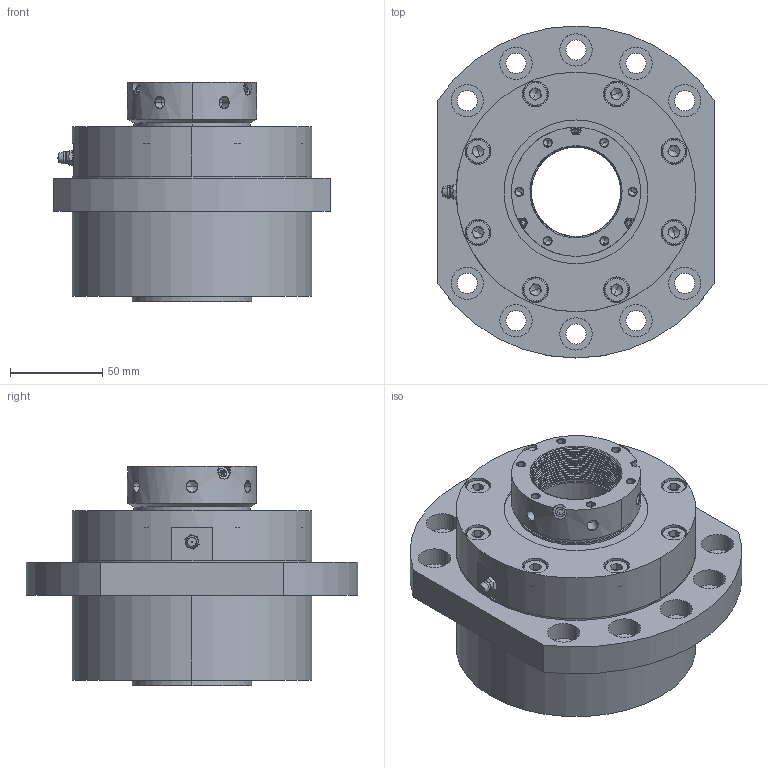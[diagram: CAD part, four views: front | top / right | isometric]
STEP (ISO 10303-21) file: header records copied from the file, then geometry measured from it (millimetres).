
FILE_DESCRIPTION (( 'STEP AP214' ), '1' );
FILE_NAME ('SWBK-50-G-DF.STEP', '2022-04-19T07:13:12', ( '' ), ( '' ), 'SwSTEP 2.0', 'SolidWorks 2021', '' );
FILE_SCHEMA (( 'AUTOMOTIVE_DESIGN' ));
Length unit declared in the file: millimetre
Products named in the file (10): SWBK50DF BODY; GPA6A; HLRN50; COLLAR2; SWBK50G COVER''; SWBK-50-G-DF; socket head cap screw_ks_KS 1003 - M8 x 20 x 20-N; 50 TAC 100C; OIL SEAL; COLLAR
Assembly tree (18 placements, depth 2):
  SWBK-50-G-DF
    SWBK50DF BODY
    50 TAC 100C  x2
    SWBK50G COVER''
    OIL SEAL  x2
    COLLAR
    COLLAR2
    HLRN50
    GPA6A
    socket head cap screw_ks_KS 1003 - M8 x 20 x 20-N  x8
Bounding box: 150 x 180 x 119 mm (x, y, z)
Volume: 1164526.3 mm3; surface area: 286232.3 mm2
Topology: 46 solids, 46 shells, 931 faces, 2281 edges, 1399 vertices
Faces by surface type: cylinder 322, plane 238, cone 140, sphere 92, torus 76, bspline 63
Entity records: 30087 total; most frequent: CARTESIAN_POINT 13583, ORIENTED_EDGE 2838, DIRECTION 2781, EDGE_CURVE 1419, AXIS2_PLACEMENT_3D 1172, VERTEX_POINT 914, EDGE_LOOP 727, ADVANCED_FACE 611
